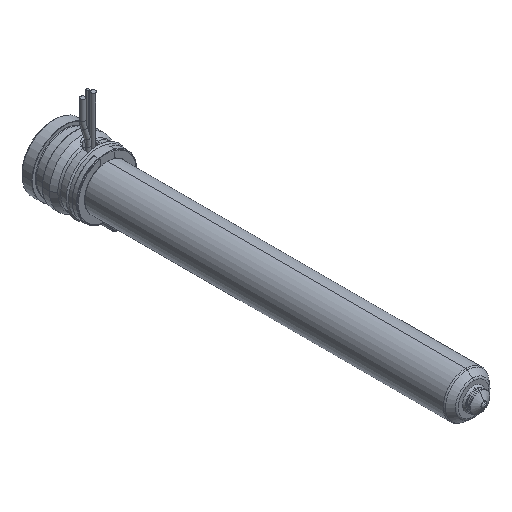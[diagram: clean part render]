
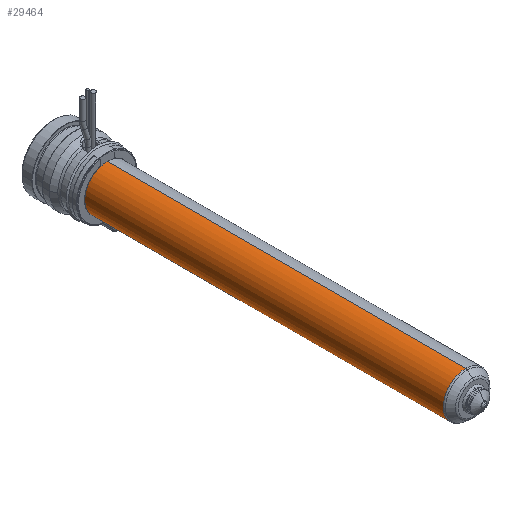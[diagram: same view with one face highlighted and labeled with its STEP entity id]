
A CAD part, isometric view. The second image highlights one B-rep face of the part: STEP entity #29464.
In plain terms, the highlighted cylindrical face has radius 9 mm (diameter 18 mm), a partial arc.
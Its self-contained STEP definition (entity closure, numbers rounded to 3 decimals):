
#28868=CARTESIAN_POINT('',(0.,-165.836,0.));
#28869=DIRECTION('',(0.,-1.,0.));
#28870=DIRECTION('',(0.,0.,1.));
#28871=AXIS2_PLACEMENT_3D('',#28868,#28869,#28870);
#28873=CARTESIAN_POINT('',(0.,-22.,0.));
#28874=DIRECTION('',(0.,1.,0.));
#28875=DIRECTION('',(0.,0.,-1.));
#28876=AXIS2_PLACEMENT_3D('',#28873,#28874,#28875);
#28878=DIRECTION('',(0.,1.,0.));
#28879=VECTOR('',#28878,143.836);
#28880=CARTESIAN_POINT('',(0.,-165.836,9.));
#28881=LINE('',#28880,#28879);
#28887=DIRECTION('',(0.,1.,0.));
#28888=VECTOR('',#28887,143.836);
#28889=CARTESIAN_POINT('',(0.,-165.836,-9.));
#28890=LINE('',#28889,#28888);
#29007=CARTESIAN_POINT('',(0.,-165.836,9.));
#29008=CARTESIAN_POINT('',(0.,-22.,9.));
#29009=VERTEX_POINT('',#29007);
#29010=VERTEX_POINT('',#29008);
#29011=CARTESIAN_POINT('',(0.,-165.836,-9.));
#29012=CARTESIAN_POINT('',(0.,-22.,-9.));
#29013=VERTEX_POINT('',#29011);
#29014=VERTEX_POINT('',#29012);
#29450=CARTESIAN_POINT('',(0.,-10.2,0.));
#29451=DIRECTION('',(0.,-1.,0.));
#29452=DIRECTION('',(0.,0.,1.));
#29453=AXIS2_PLACEMENT_3D('',#29450,#29451,#29452);
#29454=CYLINDRICAL_SURFACE('',#29453,9.);
#29456=ORIENTED_EDGE('',*,*,#29455,.F.);
#29457=ORIENTED_EDGE('',*,*,#29438,.T.);
#29459=ORIENTED_EDGE('',*,*,#29458,.T.);
#29461=ORIENTED_EDGE('',*,*,#29460,.T.);
#29462=EDGE_LOOP('',(#29456,#29457,#29459,#29461));
#29463=FACE_OUTER_BOUND('',#29462,.F.);
#29464=ADVANCED_FACE('',(#29463),#29454,.T.);
#28872=CIRCLE('',#28871,9.);
#28877=CIRCLE('',#28876,9.);
#29438=EDGE_CURVE('',#29009,#29013,#28872,.T.);
#29455=EDGE_CURVE('',#29009,#29010,#28881,.T.);
#29458=EDGE_CURVE('',#29013,#29014,#28890,.T.);
#29460=EDGE_CURVE('',#29014,#29010,#28877,.T.);
